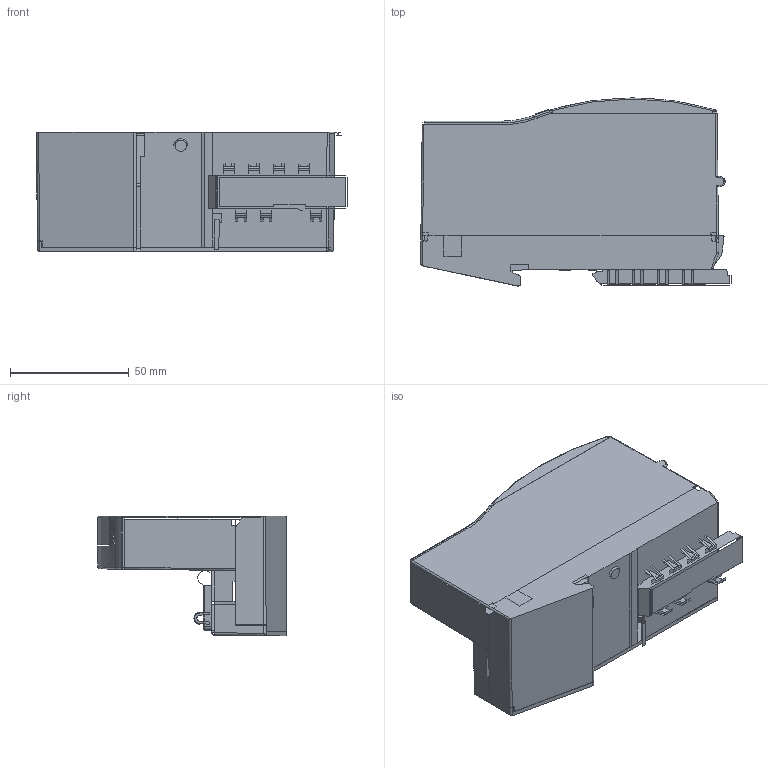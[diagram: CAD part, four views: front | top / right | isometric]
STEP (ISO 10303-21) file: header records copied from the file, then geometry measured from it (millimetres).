
FILE_DESCRIPTION((''),'2;1');
FILE_NAME('2007853','2010-09-20T',('smayer'),(''),'PRO/ENGINEER BY PARAMETRIC TECHNOLOGY CORPORATION, 2009380','PRO/ENGINEER BY PARAMETRIC TECHNOLOGY CORPORATION, 2009380','');
FILE_SCHEMA(('AUTOMOTIVE_DESIGN_CC2 { 1 2 10303 214 -1 1 5 2 }'));
Length unit declared in the file: millimetre
Products named in the file (1): 2007853
Bounding box: 130.96 x 79.36 x 50.58 mm (x, y, z)
Surface area: 43355.5 mm2
Topology: 5 solids, 46 shells, 177 faces, 985 edges, 853 vertices
Faces by surface type: plane 119, cylinder 49, torus 5, bspline 2, extrusion 1, cone 1
Entity records: 12980 total; most frequent: CARTESIAN_POINT 2603, DIRECTION 1382, ORIENTED_EDGE 1217, PRESENTATION_STYLE_ASSIGNMENT 1002, STYLED_ITEM 997, CURVE_STYLE 986, EDGE_CURVE 982, VERTEX_POINT 847
